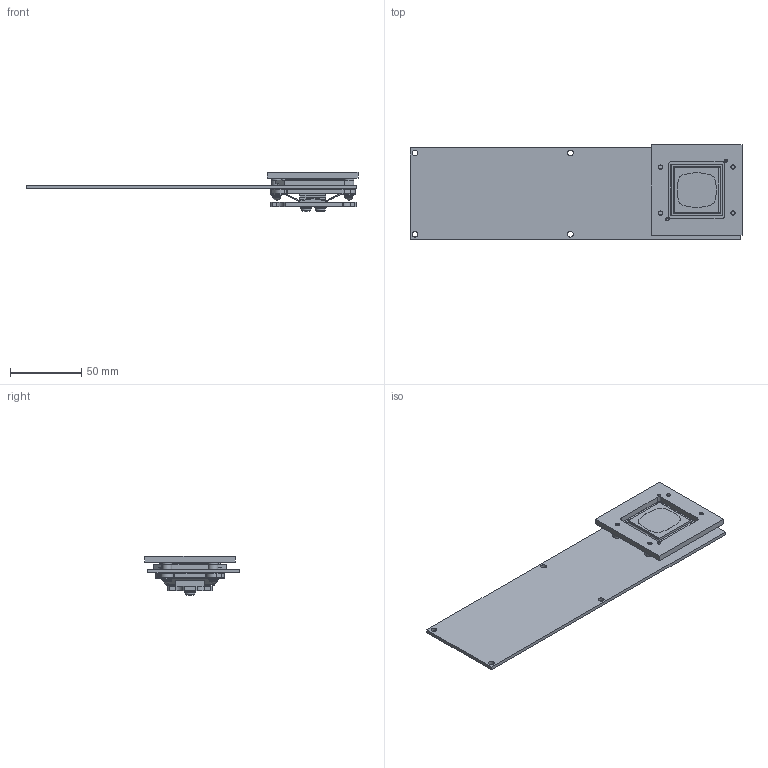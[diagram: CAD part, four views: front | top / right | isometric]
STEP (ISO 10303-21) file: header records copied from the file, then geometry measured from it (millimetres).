
FILE_DESCRIPTION((''),'2;1');
FILE_NAME('C:\Work\Temporary-CAD1\Imported Components\2503755B\2503755B-JTM.stp','2010-05-02T07:40:03',('a0130832'),(''),'Autodesk Inventor 2010','Autodesk Inventor 2010','');
FILE_SCHEMA(('AUTOMOTIVE_DESIGN { 1 0 10303 214 1 1 1 1 }'));
Length unit declared in the file: millimetre
Products named in the file (16): 2503755B; 2501956A_HOUS_MODEL; 2501957A_FRAM_MODEL; 2503753-Insulator; 2503752-PlateBacker; 2502159-FlatSpring; 2503754-Stud; Pad-Thermal; 2501930-HeatSpreader; 6SEMS-MET; 2503281-PCB; 2502160-Interface; HDWR2; 2504763; TA-9sxgap-lvds-ceramic-ain1; TA-9sxgap-lvds-wglass-ain1
Assembly tree (19 placements, depth 3):
  2503755B
    2501956A_HOUS_MODEL
    2501957A_FRAM_MODEL
    2503753-Insulator
    2503752-PlateBacker
    2502159-FlatSpring
    2503754-Stud
    Pad-Thermal
    2501930-HeatSpreader
    6SEMS-MET  x2
    2503281-PCB
    2502160-Interface
    HDWR2  x4
    2504763
      TA-9sxgap-lvds-ceramic-ain1
      TA-9sxgap-lvds-wglass-ain1
Bounding box: 232.83 x 66.25 x 27.54 mm (x, y, z)
Volume: 71840.8 mm3; surface area: 70720.7 mm2
Topology: 18 solids, 18 shells, 846 faces, 2252 edges, 1480 vertices
Faces by surface type: plane 587, cylinder 232, cone 15, sphere 8, bspline 4
Full cylindrical faces by diameter (mm): 0.1 x6, 1.2 x2, 1.41 x1, 1.5 x2, 1.65 x2, 1.908 x1, 2.08 x1, 2.7 x2, 3 x8, 3.505 x2, 3.9 x4, 4 x12, 4.216 x2, 5 x2, 5.6 x4, 6.4 x4, 6.858 x2, 7 x4, 8.128 x2
Entity records: 24487 total; most frequent: CARTESIAN_POINT 4282, DIRECTION 4090, ORIENTED_EDGE 3998, EDGE_CURVE 1999, VECTOR 1474, LINE 1474, VERTEX_POINT 1355, AXIS2_PLACEMENT_3D 1308
